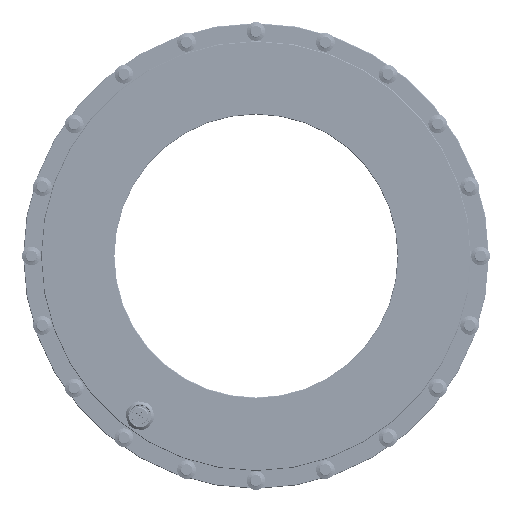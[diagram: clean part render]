
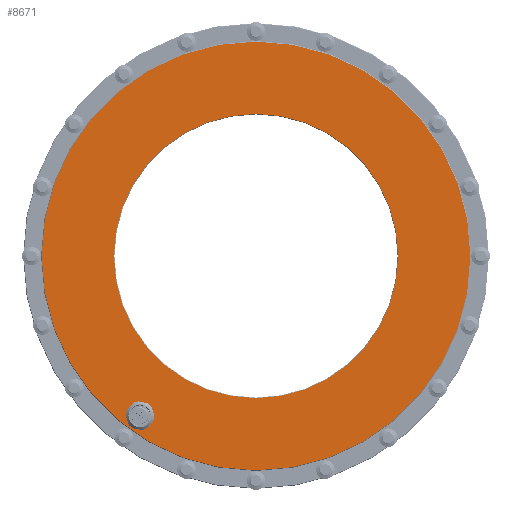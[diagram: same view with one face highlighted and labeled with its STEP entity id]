
A CAD part, front view. The second image highlights one B-rep face of the part: STEP entity #8671.
In plain terms, the highlighted planar face has unit normal (0, -1, 0).
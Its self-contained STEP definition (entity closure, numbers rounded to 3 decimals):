
#740 = ORIENTED_EDGE ( 'NONE', *, *, #11519, .T. ) ;
#1023 = DIRECTION ( 'NONE',  ( 0., -1., 0. ) ) ;
#1236 = CARTESIAN_POINT ( 'NONE',  ( 0., 0., 0. ) ) ;
#2100 = EDGE_CURVE ( 'NONE', #62201, #53697, #38826, .T. ) ;
#2539 = PLANE ( 'NONE',  #12983 ) ;
#4190 = DIRECTION ( 'NONE',  ( 0., 1., 0. ) ) ;
#4598 = FACE_BOUND ( 'NONE', #33549, .T. ) ;
#5518 = CARTESIAN_POINT ( 'NONE',  ( -81.656, 0., -118.979 ) ) ;
#6352 = AXIS2_PLACEMENT_3D ( 'NONE', #48490, #52993, #58108 ) ;
#6719 = VERTEX_POINT ( 'NONE', #61747 ) ;
#8164 = ORIENTED_EDGE ( 'NONE', *, *, #41796, .T. ) ;
#8206 = CARTESIAN_POINT ( 'NONE',  ( 0., 0., 0. ) ) ;
#8671 = ADVANCED_FACE ( 'NONE', ( #25124, #4598, #15987 ), #2539, .T. ) ;
#11250 = EDGE_CURVE ( 'NONE', #6719, #62201, #62291, .T. ) ;
#11519 = EDGE_CURVE ( 'NONE', #53788, #44292, #14951, .T. ) ;
#11848 = AXIS2_PLACEMENT_3D ( 'NONE', #1236, #1023, #15553 ) ;
#12013 = CARTESIAN_POINT ( 'NONE',  ( -80.675, 0., -103.039 ) ) ;
#12118 = DIRECTION ( 'NONE',  ( 0., -1., 0. ) ) ;
#12983 = AXIS2_PLACEMENT_3D ( 'NONE', #26611, #12118, #22384 ) ;
#14031 = LINE ( 'NONE', #32388, #33133 ) ;
#14951 = CIRCLE ( 'NONE', #60003, 8. ) ;
#15281 = CIRCLE ( 'NONE', #11848, 149.044 ) ;
#15553 = DIRECTION ( 'NONE',  ( 0., 0., -1. ) ) ;
#15729 = CIRCLE ( 'NONE', #28730, 98.806 ) ;
#15987 = FACE_BOUND ( 'NONE', #60294, .T. ) ;
#16772 = VECTOR ( 'NONE', #41441, 1000. ) ;
#17023 = DIRECTION ( 'NONE',  ( 0., 1., 0. ) ) ;
#18268 = CARTESIAN_POINT ( 'NONE',  ( 0., 0., 0. ) ) ;
#19930 = ORIENTED_EDGE ( 'NONE', *, *, #41608, .T. ) ;
#20830 = VERTEX_POINT ( 'NONE', #36194 ) ;
#20857 = CARTESIAN_POINT ( 'NONE',  ( -79.693, 0., -103.099 ) ) ;
#21371 = ORIENTED_EDGE ( 'NONE', *, *, #40850, .T. ) ;
#22295 = DIRECTION ( 'NONE',  ( 0., 1., 0. ) ) ;
#22384 = DIRECTION ( 'NONE',  ( 0., 0., -1. ) ) ;
#22674 = EDGE_CURVE ( 'NONE', #20830, #56948, #15281, .T. ) ;
#23186 = DIRECTION ( 'NONE',  ( 0., 0., -1. ) ) ;
#25124 = FACE_OUTER_BOUND ( 'NONE', #34720, .T. ) ;
#25468 = CIRCLE ( 'NONE', #41428, 8. ) ;
#26115 = ORIENTED_EDGE ( 'NONE', *, *, #22674, .T. ) ;
#26611 = CARTESIAN_POINT ( 'NONE',  ( 98.425, 0., 0. ) ) ;
#28464 = DIRECTION ( 'NONE',  ( 0., 0., -1. ) ) ;
#28730 = AXIS2_PLACEMENT_3D ( 'NONE', #8206, #22295, #46777 ) ;
#29088 = CIRCLE ( 'NONE', #32427, 98.806 ) ;
#29271 = CIRCLE ( 'NONE', #6352, 149.044 ) ;
#30881 = ORIENTED_EDGE ( 'NONE', *, *, #57890, .T. ) ;
#31330 = CARTESIAN_POINT ( 'NONE',  ( 0., 0., 98.806 ) ) ;
#32388 = CARTESIAN_POINT ( 'NONE',  ( -73.427, 0., -107.652 ) ) ;
#32427 = AXIS2_PLACEMENT_3D ( 'NONE', #18268, #4190, #28464 ) ;
#32515 = ORIENTED_EDGE ( 'NONE', *, *, #11250, .T. ) ;
#33133 = VECTOR ( 'NONE', #46049, 1000. ) ;
#33549 = EDGE_LOOP ( 'NONE', ( #21371, #30881 ) ) ;
#34720 = EDGE_LOOP ( 'NONE', ( #26115, #8164 ) ) ;
#36194 = CARTESIAN_POINT ( 'NONE',  ( 0., 0., 149.044 ) ) ;
#36678 = AXIS2_PLACEMENT_3D ( 'NONE', #41291, #17023, #61407 ) ;
#37229 = DIRECTION ( 'NONE',  ( 0., 1., 0. ) ) ;
#38219 = DIRECTION ( 'NONE',  ( 0., 1., 0. ) ) ;
#38826 = LINE ( 'NONE', #42085, #16772 ) ;
#40850 = EDGE_CURVE ( 'NONE', #52007, #54683, #15729, .T. ) ;
#41291 = CARTESIAN_POINT ( 'NONE',  ( -80.675, 0., -111.039 ) ) ;
#41428 = AXIS2_PLACEMENT_3D ( 'NONE', #61997, #38219, #42932 ) ;
#41441 = DIRECTION ( 'NONE',  ( -0.809, 0., 0.588 ) ) ;
#41608 = EDGE_CURVE ( 'NONE', #53697, #53788, #25468, .T. ) ;
#41796 = EDGE_CURVE ( 'NONE', #56948, #20830, #29271, .T. ) ;
#42085 = CARTESIAN_POINT ( 'NONE',  ( -87.922, 0., -114.426 ) ) ;
#42932 = DIRECTION ( 'NONE',  ( 0., 0., -1. ) ) ;
#44292 = VERTEX_POINT ( 'NONE', #20857 ) ;
#45026 = CARTESIAN_POINT ( 'NONE',  ( 0., 0., -149.044 ) ) ;
#45500 = CARTESIAN_POINT ( 'NONE',  ( -87.922, 0., -114.426 ) ) ;
#46049 = DIRECTION ( 'NONE',  ( 0.809, 0., -0.588 ) ) ;
#46777 = DIRECTION ( 'NONE',  ( 0., 0., -1. ) ) ;
#48490 = CARTESIAN_POINT ( 'NONE',  ( 0., 0., 0. ) ) ;
#52007 = VERTEX_POINT ( 'NONE', #61369 ) ;
#52993 = DIRECTION ( 'NONE',  ( 0., -1., 0. ) ) ;
#53574 = ORIENTED_EDGE ( 'NONE', *, *, #2100, .T. ) ;
#53697 = VERTEX_POINT ( 'NONE', #45500 ) ;
#53788 = VERTEX_POINT ( 'NONE', #12013 ) ;
#54683 = VERTEX_POINT ( 'NONE', #31330 ) ;
#56274 = ORIENTED_EDGE ( 'NONE', *, *, #62690, .T. ) ;
#56948 = VERTEX_POINT ( 'NONE', #45026 ) ;
#57890 = EDGE_CURVE ( 'NONE', #54683, #52007, #29088, .T. ) ;
#58108 = DIRECTION ( 'NONE',  ( 0., 0., -1. ) ) ;
#60003 = AXIS2_PLACEMENT_3D ( 'NONE', #61841, #37229, #23186 ) ;
#60294 = EDGE_LOOP ( 'NONE', ( #19930, #740, #56274, #32515, #53574 ) ) ;
#61369 = CARTESIAN_POINT ( 'NONE',  ( 0., 0., -98.806 ) ) ;
#61407 = DIRECTION ( 'NONE',  ( 0., 0., -1. ) ) ;
#61747 = CARTESIAN_POINT ( 'NONE',  ( -73.427, 0., -107.652 ) ) ;
#61841 = CARTESIAN_POINT ( 'NONE',  ( -80.675, 0., -111.039 ) ) ;
#61997 = CARTESIAN_POINT ( 'NONE',  ( -80.675, 0., -111.039 ) ) ;
#62201 = VERTEX_POINT ( 'NONE', #5518 ) ;
#62291 = CIRCLE ( 'NONE', #36678, 8. ) ;
#62690 = EDGE_CURVE ( 'NONE', #44292, #6719, #14031, .T. ) ;
